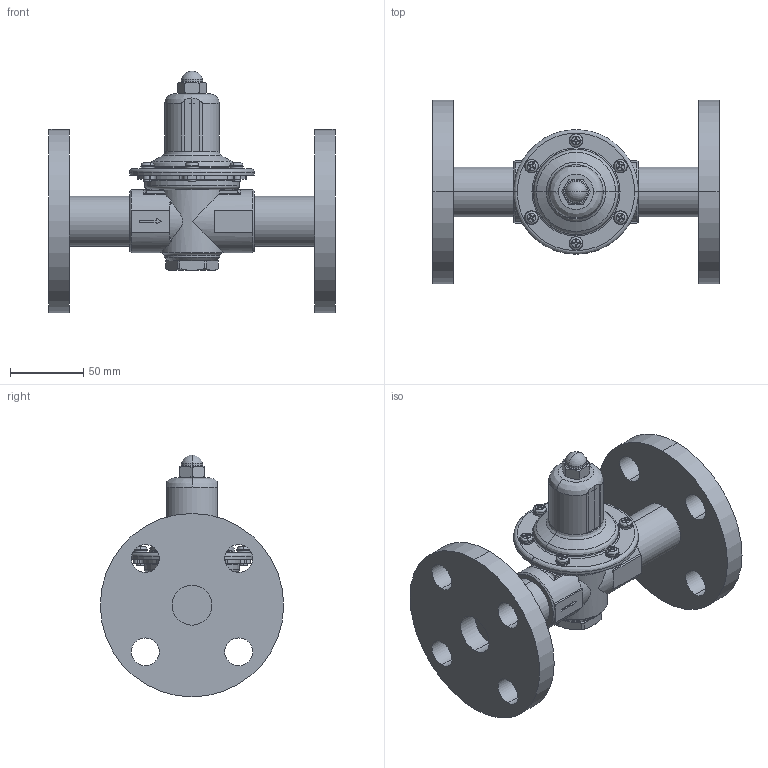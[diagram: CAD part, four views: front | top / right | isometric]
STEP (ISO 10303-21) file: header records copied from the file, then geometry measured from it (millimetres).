
FILE_DESCRIPTION( (''), '2;1');
FILE_NAME ('PC1276.4780.GD-43-10 (25A FF)_30121.stp','2026-01-15T14:28:45',(''),(''),'spGate 20.6.3 (****-****-****-****)','','');
FILE_SCHEMA (('AUTOMOTIVE_DESIGN'));
Length unit declared in the file: millimetre
Products named in the file (8): Assembly; ばねかばー; 袋ナット; 下部キャップ; なべこねじ(Ｍ5-10); スプリング座金; ダイヤフラム; GD-41 20A
Assembly tree (17 placements, depth 2):
  Assembly
    ばねかばー
    袋ナット
    下部キャップ
    なべこねじ(Ｍ5-10)  x6
    スプリング座金  x6
    ダイヤフラム
    GD-41 20A
Bounding box: 195 x 125 x 164.75 mm (x, y, z)
Volume: 567327.9 mm3; surface area: 139533.5 mm2
Topology: 17 solids, 17 shells, 631 faces, 1594 edges, 1017 vertices
Faces by surface type: plane 259, cylinder 236, bspline 120, sphere 16
Entity records: 26047 total; most frequent: CARTESIAN_POINT 5596, ORIENTED_EDGE 2380, DIRECTION 2180, COLOUR_RGB 1663, PRESENTATION_STYLE_ASSIGNMENT 1663, STYLED_ITEM 1663, EDGE_CURVE 1190, DRAUGHTING_PRE_DEFINED_CURVE_FONT 1190
